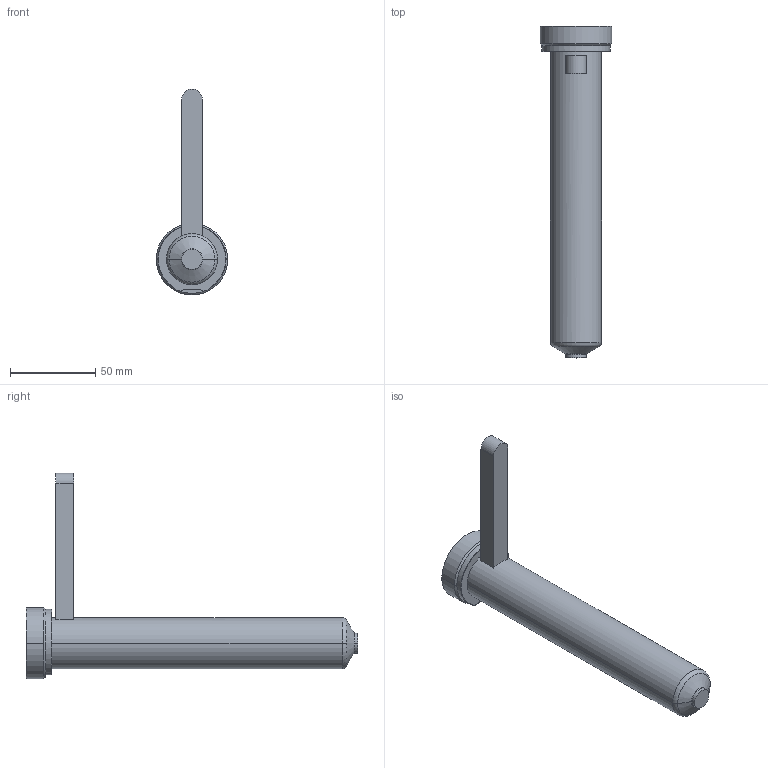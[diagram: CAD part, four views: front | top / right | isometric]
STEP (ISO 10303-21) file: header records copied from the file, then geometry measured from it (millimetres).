
FILE_DESCRIPTION((''),'2;1');
FILE_NAME('EO08_SG_SG_180_COT','2024-02-19T12:21:05',('sundharh'),(''),'CREO PARAMETRIC BY PTC INC, 2023154','CREO PARAMETRIC BY PTC INC, 2023154','');
FILE_SCHEMA(('CONFIG_CONTROL_DESIGN'));
Length unit declared in the file: millimetre
Products named in the file (1): EO08_SG_SG_180_COT
Bounding box: 42 x 195 x 121 mm (x, y, z)
Volume: 154867.9 mm3; surface area: 24815.1 mm2
Topology: 1 solids, 1 shells, 31 faces, 67 edges, 40 vertices
Faces by surface type: cylinder 11, plane 9, torus 7, cone 4
Entity records: 951 total; most frequent: CARTESIAN_POINT 218, DIRECTION 159, ORIENTED_EDGE 134, AXIS2_PLACEMENT_3D 67, EDGE_CURVE 67, VERTEX_POINT 40, CIRCLE 36, EDGE_LOOP 33
